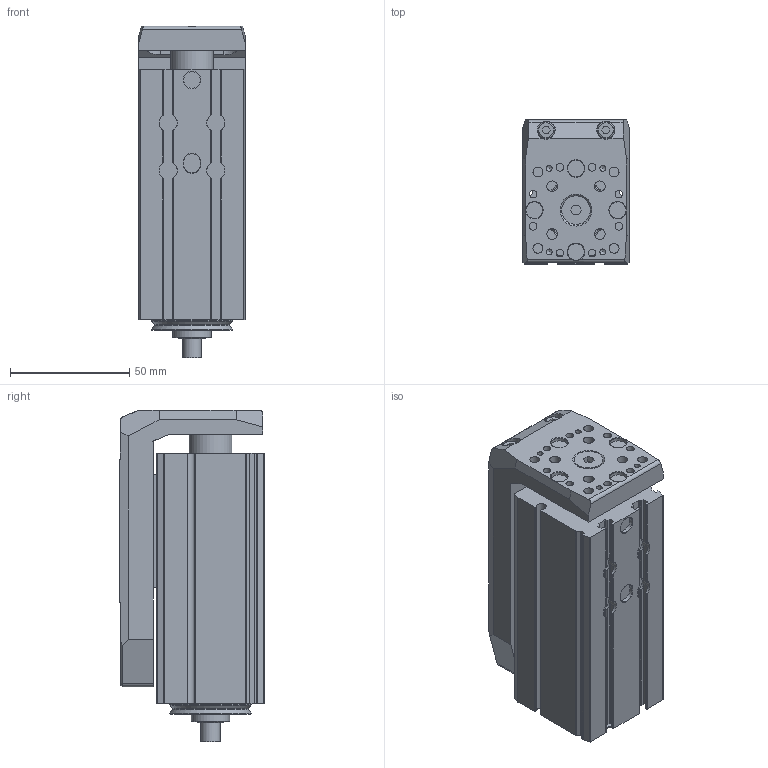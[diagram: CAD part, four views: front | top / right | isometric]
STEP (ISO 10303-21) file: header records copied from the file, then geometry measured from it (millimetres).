
FILE_DESCRIPTION(/* description */ ('STEP AP214'),/* implementation_level */ '2;1');
FILE_NAME(/* name */ 'MSCE 45 1003 25(0)',/* time_stamp */ '2023-10-06T11:57:55+02:00',/* author */ ('License CC BY-ND 4.0'),/* organization */ ('CADENAS'),/* preprocessor_version */ 'ST-DEVELOPER v19.3',/* originating_system */ 'PARTsolutions',/* authorisation */ ' ');
FILE_SCHEMA (('AUTOMOTIVE_DESIGN {1 0 10303 214 3 1 1}'));
Length unit declared in the file: millimetre
Products named in the file (3): MSCE 45 1003 25(0); 45(25)_prp; 45(25)_msce
Assembly tree (2 placements, depth 2):
  MSCE 45 1003 25(0)
    45(25)_prp
    45(25)_msce
Bounding box: 45 x 60.5 x 139 mm (x, y, z)
Volume: 273971 mm3; surface area: 74227.8 mm2
Topology: 2 solids, 2 shells, 436 faces, 1125 edges, 741 vertices
Faces by surface type: plane 208, cylinder 198, cone 23, torus 7
Full cylindrical faces by diameter (mm): 2.459 x8, 3.2 x8, 3.242 x8, 4 x2, 4.134 x4, 4.5 x4, 6 x8, 7 x7, 7.5 x4, 7.6 x2, 8 x1, 12 x1, 16 x1, 18 x2, 24 x1, 24.5 x1, 34 x2, 37.5 x2
Entity records: 14172 total; most frequent: CARTESIAN_POINT 2561, DIRECTION 2180, ORIENTED_EDGE 2034, EDGE_CURVE 1017, AXIS2_PLACEMENT_3D 825, VERTEX_POINT 729, FACE_BOUND 612, EDGE_LOOP 608
